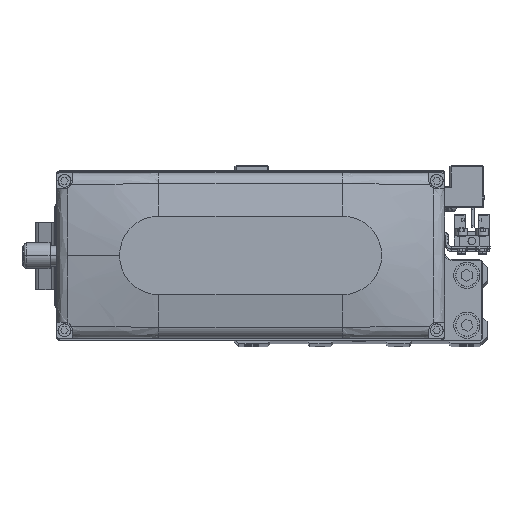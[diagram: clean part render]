
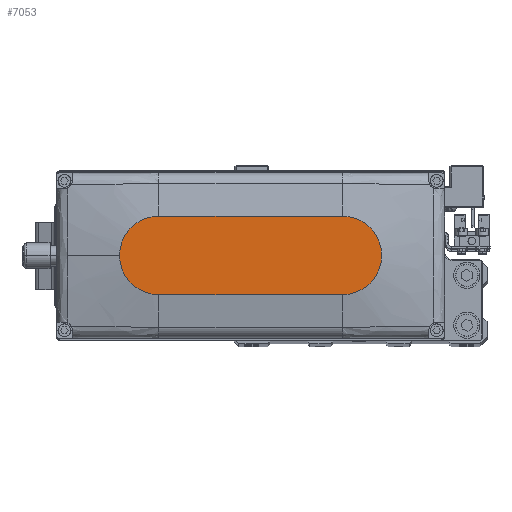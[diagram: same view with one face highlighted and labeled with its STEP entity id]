
A CAD part, top view. The second image highlights one B-rep face of the part: STEP entity #7053.
In plain terms, the highlighted planar face has unit normal (0, 0, 1).
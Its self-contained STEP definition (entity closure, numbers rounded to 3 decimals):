
#252 = CARTESIAN_POINT ( 'NONE',  ( 0., 0., 35. ) ) ;
#1103 = CARTESIAN_POINT ( 'NONE',  ( -35., 15., 35. ) ) ;
#3871 = ORIENTED_EDGE ( 'NONE', *, *, #15124, .T. ) ;
#7053 = ADVANCED_FACE ( 'NONE', ( #16236 ), #29055, .T. ) ;
#8630 = CIRCLE ( 'NONE', #32102, 15. ) ;
#8811 = CARTESIAN_POINT ( 'NONE',  ( 50., 0., 35. ) ) ;
#9011 = CARTESIAN_POINT ( 'NONE',  ( -35., -15., 35. ) ) ;
#9077 = CIRCLE ( 'NONE', #14445, 15. ) ;
#9488 = DIRECTION ( 'NONE',  ( 0., 0., 1. ) ) ;
#9635 = CARTESIAN_POINT ( 'NONE',  ( 35., 15., 35. ) ) ;
#9672 = CARTESIAN_POINT ( 'NONE',  ( 35., 0., 35. ) ) ;
#9920 = EDGE_CURVE ( 'NONE', #26304, #10407, #8630, .T. ) ;
#10407 = VERTEX_POINT ( 'NONE', #9635 ) ;
#10918 = EDGE_LOOP ( 'NONE', ( #27008, #21570, #30954, #3871, #36960 ) ) ;
#11870 = DIRECTION ( 'NONE',  ( 1., 0., 0. ) ) ;
#13076 = DIRECTION ( 'NONE',  ( 0., 0., 1. ) ) ;
#13114 = EDGE_CURVE ( 'NONE', #25634, #24983, #37771, .T. ) ;
#13933 = DIRECTION ( 'NONE',  ( -1., 0., 0. ) ) ;
#14445 = AXIS2_PLACEMENT_3D ( 'NONE', #9672, #22497, #35270 ) ;
#15124 = EDGE_CURVE ( 'NONE', #24983, #26304, #9077, .T. ) ;
#16236 = FACE_OUTER_BOUND ( 'NONE', #10918, .T. ) ;
#17572 = EDGE_CURVE ( 'NONE', #29059, #25634, #37668, .T. ) ;
#17821 = EDGE_CURVE ( 'NONE', #10407, #29059, #29896, .T. ) ;
#19589 = AXIS2_PLACEMENT_3D ( 'NONE', #27846, #40614, #11870 ) ;
#21570 = ORIENTED_EDGE ( 'NONE', *, *, #17572, .T. ) ;
#21826 = DIRECTION ( 'NONE',  ( 1., 0., 0. ) ) ;
#22314 = DIRECTION ( 'NONE',  ( 1., 0., 0. ) ) ;
#22497 = DIRECTION ( 'NONE',  ( 0., 0., 1. ) ) ;
#24983 = VERTEX_POINT ( 'NONE', #34041 ) ;
#25634 = VERTEX_POINT ( 'NONE', #35823 ) ;
#25674 = CARTESIAN_POINT ( 'NONE',  ( -35., 15., 35. ) ) ;
#25878 = DIRECTION ( 'NONE',  ( 1., 0., 0. ) ) ;
#26304 = VERTEX_POINT ( 'NONE', #8811 ) ;
#26682 = AXIS2_PLACEMENT_3D ( 'NONE', #252, #13076, #25878 ) ;
#27008 = ORIENTED_EDGE ( 'NONE', *, *, #17821, .T. ) ;
#27846 = CARTESIAN_POINT ( 'NONE',  ( -35., 0., 35. ) ) ;
#29055 = PLANE ( 'NONE',  #26682 ) ;
#29059 = VERTEX_POINT ( 'NONE', #25674 ) ;
#29896 = LINE ( 'NONE', #1103, #38353 ) ;
#30954 = ORIENTED_EDGE ( 'NONE', *, *, #13114, .T. ) ;
#32102 = AXIS2_PLACEMENT_3D ( 'NONE', #38230, #9488, #22314 ) ;
#34041 = CARTESIAN_POINT ( 'NONE',  ( 35., -15., 35. ) ) ;
#35270 = DIRECTION ( 'NONE',  ( 1., 0., 0. ) ) ;
#35390 = VECTOR ( 'NONE', #21826, 1000. ) ;
#35823 = CARTESIAN_POINT ( 'NONE',  ( -35., -15., 35. ) ) ;
#36960 = ORIENTED_EDGE ( 'NONE', *, *, #9920, .T. ) ;
#37668 = CIRCLE ( 'NONE', #19589, 15. ) ;
#37771 = LINE ( 'NONE', #9011, #35390 ) ;
#38230 = CARTESIAN_POINT ( 'NONE',  ( 35., 0., 35. ) ) ;
#38353 = VECTOR ( 'NONE', #13933, 1000. ) ;
#40614 = DIRECTION ( 'NONE',  ( 0., 0., 1. ) ) ;
